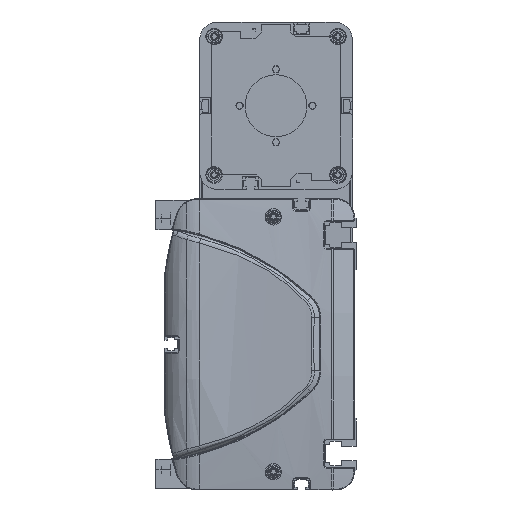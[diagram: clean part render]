
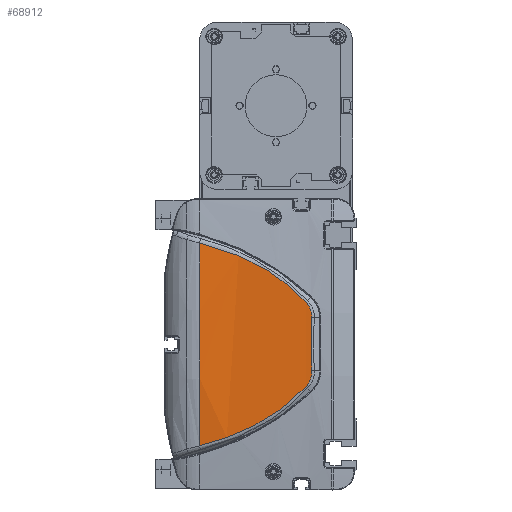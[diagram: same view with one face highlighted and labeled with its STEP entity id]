
A CAD part, left-side view. The second image highlights one B-rep face of the part: STEP entity #68912.
In plain terms, the highlighted cylindrical face has radius 600 mm (diameter 1200 mm), a partial arc.
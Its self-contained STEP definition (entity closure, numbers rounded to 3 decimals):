
#63931=CARTESIAN_POINT('',(-12.406,86.,
55.736));
#63932=CARTESIAN_POINT('',(-12.529,80.495,
54.41));
#63933=CARTESIAN_POINT('',(-12.828,69.636,
51.114));
#63934=CARTESIAN_POINT('',(-13.389,54.079,
44.179));
#63935=CARTESIAN_POINT('',(-14.01,39.709,
34.979));
#63936=CARTESIAN_POINT('',(-14.395,31.353,
27.243));
#63937=CARTESIAN_POINT('',(-14.555,27.451,
23.113));
#63939=CARTESIAN_POINT('',(-14.555,27.451,
23.113));
#63940=CARTESIAN_POINT('',(-14.641,25.336,
20.875));
#63941=CARTESIAN_POINT('',(-14.745,24.202,
17.745));
#63942=CARTESIAN_POINT('',(-14.821,24.351,
14.67));
#63944=CARTESIAN_POINT('',(-14.821,24.351,
14.67));
#63945=CARTESIAN_POINT('',(-14.9,24.51,
11.413));
#63946=CARTESIAN_POINT('',(-15.007,24.721,
4.895));
#63947=CARTESIAN_POINT('',(-15.007,24.721,
-4.895));
#63948=CARTESIAN_POINT('',(-14.9,24.51,
-11.413));
#63949=CARTESIAN_POINT('',(-14.821,24.351,
-14.67));
#63951=CARTESIAN_POINT('',(-14.821,24.351,
-14.67));
#63952=CARTESIAN_POINT('',(-14.745,24.202,
-17.745));
#63953=CARTESIAN_POINT('',(-14.641,25.337,
-20.876));
#63954=CARTESIAN_POINT('',(-14.555,27.451,
-23.113));
#63956=CARTESIAN_POINT('',(-14.555,27.451,
-23.113));
#63957=CARTESIAN_POINT('',(-14.395,31.353,
-27.243));
#63958=CARTESIAN_POINT('',(-14.01,39.709,
-34.979));
#63959=CARTESIAN_POINT('',(-13.389,54.079,
-44.179));
#63960=CARTESIAN_POINT('',(-12.828,69.636,
-51.114));
#63961=CARTESIAN_POINT('',(-12.529,80.495,
-54.41));
#63962=CARTESIAN_POINT('',(-12.406,86.,
-55.736));
#63964=CARTESIAN_POINT('',(585.,86.,0.));
#63965=DIRECTION('',(0.,1.,0.));
#63966=DIRECTION('',(-0.996,0.,-0.093));
#63967=AXIS2_PLACEMENT_3D('',#63964,#63965,#63966);
#63980=CARTESIAN_POINT('',(-12.406,86.,
55.736));
#64488=VERTEX_POINT('',#63980);
#64489=CARTESIAN_POINT('',(-12.406,86.,
-55.736));
#64490=VERTEX_POINT('',#64489);
#64542=VERTEX_POINT('',#63937);
#64543=VERTEX_POINT('',#63942);
#64544=VERTEX_POINT('',#63949);
#64545=VERTEX_POINT('',#63954);
#68894=CARTESIAN_POINT('',(585.,87.45,0.));
#68895=DIRECTION('',(0.,-1.,0.));
#68896=DIRECTION('',(0.,0.,-1.));
#68897=AXIS2_PLACEMENT_3D('',#68894,#68895,#68896);
#68898=CYLINDRICAL_SURFACE('',#68897,600.);
#68900=ORIENTED_EDGE('',*,*,#68899,.T.);
#68902=ORIENTED_EDGE('',*,*,#68901,.T.);
#68903=ORIENTED_EDGE('',*,*,#68884,.T.);
#68905=ORIENTED_EDGE('',*,*,#68904,.T.);
#68907=ORIENTED_EDGE('',*,*,#68906,.T.);
#68909=ORIENTED_EDGE('',*,*,#68908,.T.);
#68910=EDGE_LOOP('',(#68900,#68902,#68903,#68905,#68907,#68909));
#68911=FACE_OUTER_BOUND('',#68910,.F.);
#68912=ADVANCED_FACE('',(#68911),#68898,.T.);
#63938=B_SPLINE_CURVE_WITH_KNOTS('',3,(#63931,#63932,#63933,#63934,#63935,
#63936,#63937),.UNSPECIFIED.,.F.,.F.,(4,1,1,1,4),(0.,0.25,0.5,0.75,
1.),.UNSPECIFIED.);
#63943=B_SPLINE_CURVE_WITH_KNOTS('',3,(#63939,#63940,#63941,#63942),
.UNSPECIFIED.,.F.,.F.,(4,4),(0.,1.),.UNSPECIFIED.);
#63950=B_SPLINE_CURVE_WITH_KNOTS('',3,(#63944,#63945,#63946,#63947,#63948,
#63949),.UNSPECIFIED.,.F.,.F.,(4,1,1,4),(0.,0.333,
0.667,1.),.UNSPECIFIED.);
#63955=B_SPLINE_CURVE_WITH_KNOTS('',3,(#63951,#63952,#63953,#63954),
.UNSPECIFIED.,.F.,.F.,(4,4),(0.,1.),.UNSPECIFIED.);
#63963=B_SPLINE_CURVE_WITH_KNOTS('',3,(#63956,#63957,#63958,#63959,#63960,
#63961,#63962),.UNSPECIFIED.,.F.,.F.,(4,1,1,1,4),(0.,0.25,0.5,0.75,
1.),.UNSPECIFIED.);
#63968=CIRCLE('',#63967,600.);
#68884=EDGE_CURVE('',#64543,#64544,#63950,.T.);
#68899=EDGE_CURVE('',#64488,#64542,#63938,.T.);
#68901=EDGE_CURVE('',#64542,#64543,#63943,.T.);
#68904=EDGE_CURVE('',#64544,#64545,#63955,.T.);
#68906=EDGE_CURVE('',#64545,#64490,#63963,.T.);
#68908=EDGE_CURVE('',#64490,#64488,#63968,.T.);
